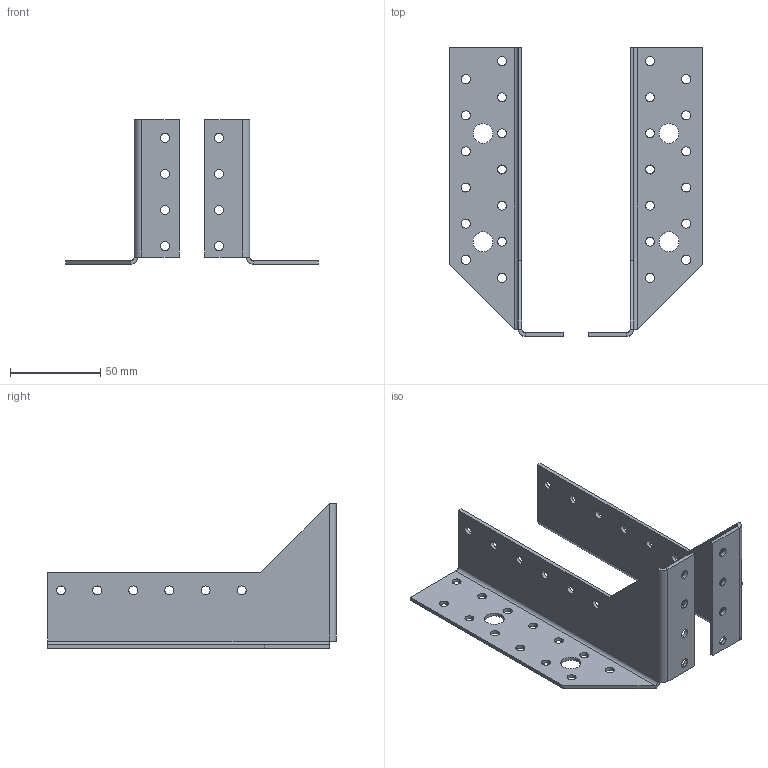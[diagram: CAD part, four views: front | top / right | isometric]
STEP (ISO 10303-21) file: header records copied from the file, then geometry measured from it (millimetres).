
FILE_DESCRIPTION (( 'STEP AP203' ), '1' );
FILE_NAME ('162.STEP', '2021-04-18T12:38:19', ( '' ), ( '' ), 'SwSTEP 2.0', 'SolidWorks 2013', '' );
FILE_SCHEMA (( 'CONFIG_CONTROL_DESIGN' ));
Length unit declared in the file: millimetre
Products named in the file (1): 162
Bounding box: 140 x 160 x 80 mm (x, y, z)
Volume: 54662.4 mm3; surface area: 58598 mm2
Topology: 2 solids, 2 shells, 146 faces, 394 edges, 252 vertices
Faces by surface type: cylinder 108, plane 38
Entity records: 4933 total; most frequent: DIRECTION 904, CARTESIAN_POINT 793, ORIENTED_EDGE 788, EDGE_CURVE 394, AXIS2_PLACEMENT_3D 363, VERTEX_POINT 252, EDGE_LOOP 246, CIRCLE 216
